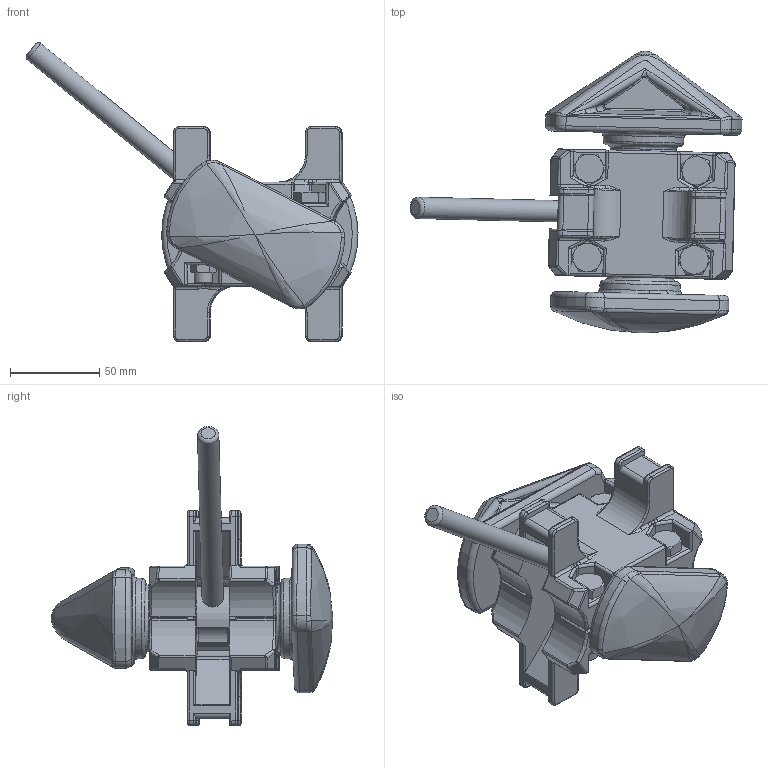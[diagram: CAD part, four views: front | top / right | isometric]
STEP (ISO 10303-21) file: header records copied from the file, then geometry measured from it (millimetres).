
FILE_DESCRIPTION(/* description */ (''),/* implementation_level */ '2;1');
FILE_NAME(/* name */ 'O:\ils2000\Natallia\INVENTOR\Cataloog\IF-51L.stp',/* time_stamp */ '2016-08-12T09:18:13+02:00',/* author */ ('natallia'),/* organization */ (''),/* preprocessor_version */ 'ST-DEVELOPER v16.5',/* originating_system */ 'Autodesk Inventor 2017',/* authorisation */ '');
FILE_SCHEMA (('AUTOMOTIVE_DESIGN { 1 0 10303 214 3 1 1 }'));
Products named in the file (5): IF-51L; BODY IF-51L; CONE IF-51L; ISO 8765 - M10 x 1,25 x 45; ANSI B18.2.2 - 1/4 - 28
Assembly tree (10 placements, depth 2):
  IF-51L
    BODY IF-51L
    CONE IF-51L
    ISO 8765 - M10 x 1,25 x 45  x4
    ANSI B18.2.2 - 1/4 - 28  x4
Bounding box: 186.18 x 157.91 x 167.66 mm (x, y, z)
Volume: 610992.9 mm3; surface area: 119240.3 mm2
Topology: 10 solids, 10 shells, 1016 faces, 2452 edges, 1445 vertices
Faces by surface type: plane 320, cylinder 318, bspline 148, torus 103, cone 95, sphere 32
Full cylindrical faces by diameter (mm): 5.359 x4, 10 x4, 12 x1, 14.63 x4, 37 x1
Entity records: 30048 total; most frequent: CARTESIAN_POINT 9591, ORIENTED_EDGE 4256, DIRECTION 4230, EDGE_CURVE 2128, AXIS2_PLACEMENT_3D 1631, VERTEX_POINT 1284, LINE 968, VECTOR 968
